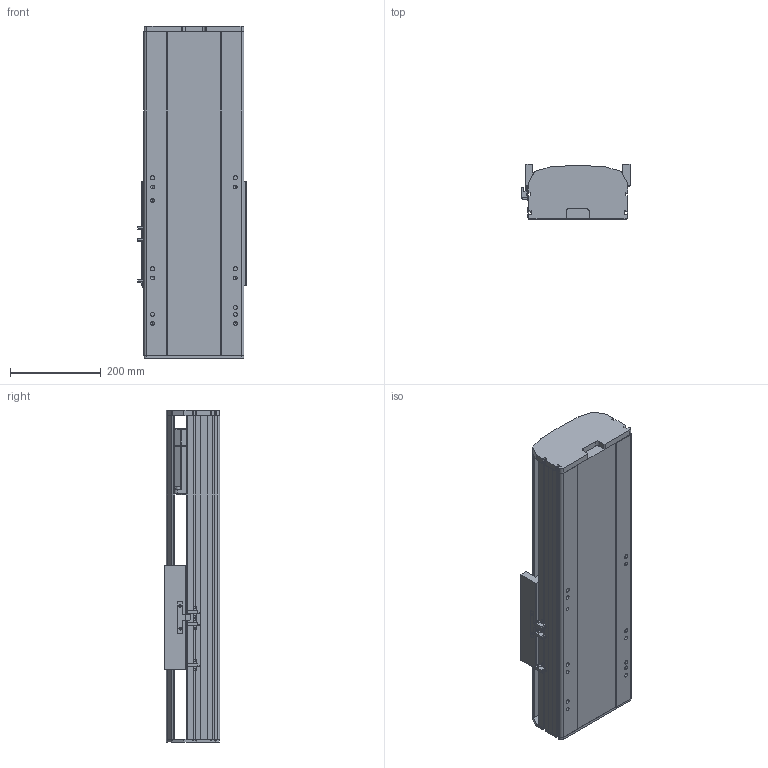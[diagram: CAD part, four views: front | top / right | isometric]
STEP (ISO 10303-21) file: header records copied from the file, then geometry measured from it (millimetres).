
FILE_DESCRIPTION (( 'STEP AP214' ), '1' );
FILE_NAME ('RTH22-XX-100-B-M75B-C4.STEP', '2025-10-24T10:03:27', ( 'Microsoft' ), ( 'Microsoft' ), 'SwSTEP 2.0', 'SolidWorks 2018', '' );
FILE_SCHEMA (( 'AUTOMOTIVE_DESIGN' ));
Length unit declared in the file: millimetre
Products named in the file (9): N_RTH22-GY-001耜裔^RTH22-XX-XX-B-M75B-C4; N_RTH22-B-011B菁釱^RTH22-XX-XX-B-M75B-C4; N_RTH22-GY-013外置感应片^RTH22-XX-XX-B-M75B-C4; RTH22-XX-100-B-M75B-C4; N_RTH22-B008萇儂啣^RTH22-XX-XX-B-M75B-C4; N_750W萇儂^RTH22-XX-XX-B-M75B-C4; N_RTH22-B-007B奻裔^RTH22-XX-XX-B-M75B-C4; N_OMRON EE-SX672 传感器^RTH22-XX-XX-B-M75B-C4; N_RTH22-E-004-SFS25賑釱^RTH22-XX-XX-B-M75B-C4
Assembly tree (10 placements, depth 2):
  RTH22-XX-100-B-M75B-C4
    N_RTH22-B-011B菁釱^RTH22-XX-XX-B-M75B-C4
    N_RTH22-GY-001耜裔^RTH22-XX-XX-B-M75B-C4
    N_750W萇儂^RTH22-XX-XX-B-M75B-C4
    N_RTH22-B008萇儂啣^RTH22-XX-XX-B-M75B-C4
    N_RTH22-B-007B奻裔^RTH22-XX-XX-B-M75B-C4
    N_OMRON EE-SX672 传感器^RTH22-XX-XX-B-M75B-C4  x3
    N_RTH22-GY-013外置感应片^RTH22-XX-XX-B-M75B-C4
    N_RTH22-E-004-SFS25賑釱^RTH22-XX-XX-B-M75B-C4
Bounding box: 238.5 x 122 x 730 mm (x, y, z)
Volume: 11439460.1 mm3; surface area: 1218177.6 mm2
Topology: 10 solids, 10 shells, 1461 faces, 4000 edges, 2593 vertices
Faces by surface type: plane 746, cylinder 394, bspline 279, cone 42
Entity records: 35459 total; most frequent: CARTESIAN_POINT 11253, ORIENTED_EDGE 5008, DIRECTION 4622, EDGE_CURVE 2504, VERTEX_POINT 1629, LINE 1578, VECTOR 1578, AXIS2_PLACEMENT_3D 1522
